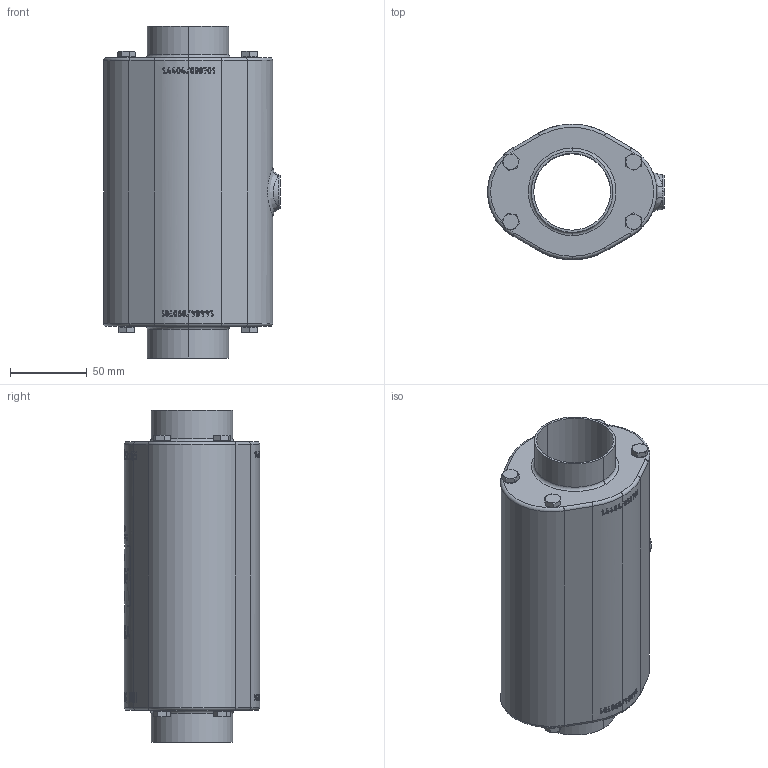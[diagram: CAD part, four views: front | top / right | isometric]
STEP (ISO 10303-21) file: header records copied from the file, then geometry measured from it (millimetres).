
FILE_DESCRIPTION (( 'STEP AP214' ), '1' );
FILE_NAME ('VMC50xx50R50_EV.STEP', '2015-03-04T10:59:09', ( '' ), ( '' ), 'SwSTEP 2.0', 'SolidWorks 2015', '' );
FILE_SCHEMA (( 'AUTOMOTIVE_DESIGN' ));
Length unit declared in the file: millimetre
Products named in the file (1): VMC50xx50R50_EV
Bounding box: 115 x 88 x 216 mm (x, y, z)
Volume: 936293.6 mm3; surface area: 111202.6 mm2
Topology: 1 solids, 9 shells, 2053 faces, 5577 edges, 3650 vertices
Faces by surface type: bspline 1221, plane 531, cylinder 185, cone 84, torus 32
Entity records: 173185 total; most frequent: CARTESIAN_POINT 109439, ORIENTED_EDGE 11154, EDGE_CURVE 5577, DIRECTION 4134, B_SPLINE_CURVE_WITH_KNOTS 3741, VERTEX_POINT 3650, EDGE_LOOP 2179, UNCERTAINTY_MEASURE_WITH_UNIT 2056
